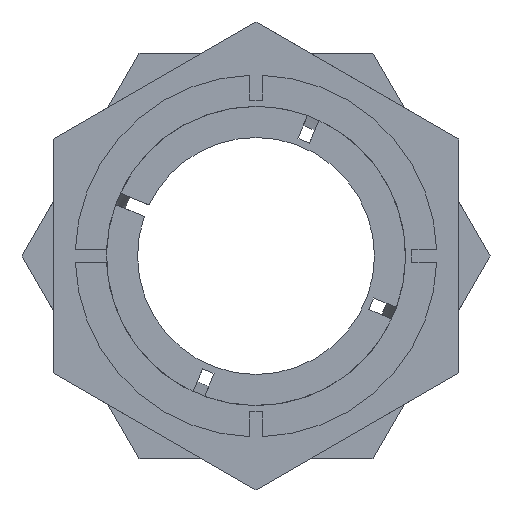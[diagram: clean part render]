
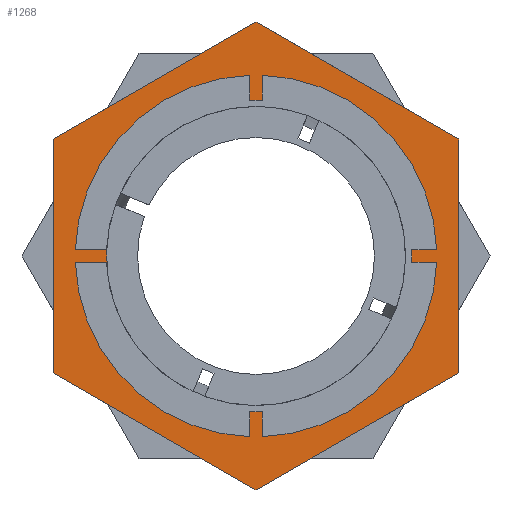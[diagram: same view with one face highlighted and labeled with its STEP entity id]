
A CAD part, left-side view. The second image highlights one B-rep face of the part: STEP entity #1268.
In plain terms, the highlighted planar face has unit normal (-1, 0, 0).
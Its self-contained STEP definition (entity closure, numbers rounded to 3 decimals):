
#87 = VERTEX_POINT ( 'NONE', #214 ) ;
#88 = VERTEX_POINT ( 'NONE', #215 ) ;
#89 = VERTEX_POINT ( 'NONE', #216 ) ;
#90 = VERTEX_POINT ( 'NONE', #217 ) ;
#91 = VERTEX_POINT ( 'NONE', #218 ) ;
#92 = VERTEX_POINT ( 'NONE', #219 ) ;
#93 = VERTEX_POINT ( 'NONE', #220 ) ;
#94 = VERTEX_POINT ( 'NONE', #221 ) ;
#214 = CARTESIAN_POINT ( 'NONE',  ( 32.52, 0., -23.001 ) ) ;
#215 = CARTESIAN_POINT ( 'NONE',  ( 32.52, 0., 23.001 ) ) ;
#216 = CARTESIAN_POINT ( 'NONE',  ( 32.52, 0., 37.528 ) ) ;
#217 = CARTESIAN_POINT ( 'NONE',  ( 32.52, 32.5, 18.764 ) ) ;
#218 = CARTESIAN_POINT ( 'NONE',  ( 32.52, 32.5, -18.764 ) ) ;
#219 = CARTESIAN_POINT ( 'NONE',  ( 32.52, 0., -37.528 ) ) ;
#220 = CARTESIAN_POINT ( 'NONE',  ( 32.52, -32.5, -18.764 ) ) ;
#221 = CARTESIAN_POINT ( 'NONE',  ( 32.52, -32.5, 18.764 ) ) ;
#575 = CARTESIAN_POINT ( 'NONE',  ( 32.52, 0., -37.528 ) ) ;
#576 = DIRECTION ( 'NONE',  ( 0., -0.866, -0.5 ) ) ;
#667 = CARTESIAN_POINT ( 'NONE',  ( 32.52, 0., 0. ) ) ;
#676 = DIRECTION ( 'NONE',  ( -1., 0., 0. ) ) ;
#677 = DIRECTION ( 'NONE',  ( 0., 0., 1. ) ) ;
#683 = CARTESIAN_POINT ( 'NONE',  ( 32.52, 0., 0. ) ) ;
#695 = CARTESIAN_POINT ( 'NONE',  ( 32.52, 32.5, -18.764 ) ) ;
#696 = DIRECTION ( 'NONE',  ( 0., 0., -1. ) ) ;
#699 = CARTESIAN_POINT ( 'NONE',  ( 32.52, -32.5, 18.764 ) ) ;
#700 = DIRECTION ( 'NONE',  ( 0., 0., 1. ) ) ;
#701 = CARTESIAN_POINT ( 'NONE',  ( 32.52, -32.5, -18.764 ) ) ;
#702 = DIRECTION ( 'NONE',  ( 0., -0.866, 0.5 ) ) ;
#703 = DIRECTION ( 'NONE',  ( -1., 0., 0. ) ) ;
#704 = DIRECTION ( 'NONE',  ( 0., 0., 1. ) ) ;
#705 = CARTESIAN_POINT ( 'NONE',  ( 32.52, 32.5, 18.764 ) ) ;
#706 = DIRECTION ( 'NONE',  ( 0., 0.866, -0.5 ) ) ;
#707 = CARTESIAN_POINT ( 'NONE',  ( 32.52, 0., 37.528 ) ) ;
#708 = DIRECTION ( 'NONE',  ( 0., 0.866, 0.5 ) ) ;
#884 = PLANE ( 'NONE',  #1771 ) ;
#885 = CARTESIAN_POINT ( 'NONE',  ( 32.52, 50., 0. ) ) ;
#893 = DIRECTION ( 'NONE',  ( 1., 0., 0. ) ) ;
#894 = DIRECTION ( 'NONE',  ( 0., 0., -1. ) ) ;
#1131 = EDGE_CURVE ( 'NONE', #91, #92, #2037, .T. ) ;
#1171 = EDGE_CURVE ( 'NONE', #87, #88, #2099, .T. ) ;
#1179 = EDGE_CURVE ( 'NONE', #90, #91, #2109, .T. ) ;
#1181 = EDGE_CURVE ( 'NONE', #93, #94, #2113, .T. ) ;
#1182 = EDGE_CURVE ( 'NONE', #92, #93, #2115, .T. ) ;
#1183 = EDGE_CURVE ( 'NONE', #88, #87, #2119, .T. ) ;
#1184 = EDGE_CURVE ( 'NONE', #89, #90, #2089, .T. ) ;
#1185 = EDGE_CURVE ( 'NONE', #94, #89, #2120, .T. ) ;
#1268 = ADVANCED_FACE ( 'NONE', ( #2208, #2206 ), #884, .F. ) ;
#1588 = EDGE_LOOP ( 'NONE', ( #2376, #2374 ) ) ;
#1615 = EDGE_LOOP ( 'NONE', ( #2419, #2312, #2324, #2314, #2318, #2320 ) ) ;
#1728 = AXIS2_PLACEMENT_3D ( 'NONE', #667, #676, #677 ) ;
#1730 = AXIS2_PLACEMENT_3D ( 'NONE', #683, #703, #704 ) ;
#1771 = AXIS2_PLACEMENT_3D ( 'NONE', #885, #893, #894 ) ;
#2037 = LINE ( 'NONE', #575, #2038 ) ;
#2038 = VECTOR ( 'NONE', #576, 1000. ) ;
#2089 = LINE ( 'NONE', #705, #2105 ) ;
#2099 = CIRCLE ( 'NONE', #1728, 23.001 ) ;
#2105 = VECTOR ( 'NONE', #706, 1000. ) ;
#2109 = LINE ( 'NONE', #695, #2110 ) ;
#2110 = VECTOR ( 'NONE', #696, 1000. ) ;
#2113 = LINE ( 'NONE', #699, #2114 ) ;
#2114 = VECTOR ( 'NONE', #700, 1000. ) ;
#2115 = LINE ( 'NONE', #701, #2116 ) ;
#2116 = VECTOR ( 'NONE', #702, 1000. ) ;
#2119 = CIRCLE ( 'NONE', #1730, 23.001 ) ;
#2120 = LINE ( 'NONE', #707, #2121 ) ;
#2121 = VECTOR ( 'NONE', #708, 1000. ) ;
#2206 = FACE_OUTER_BOUND ( 'NONE', #1615, .T. ) ;
#2208 = FACE_BOUND ( 'NONE', #1588, .T. ) ;
#2312 = ORIENTED_EDGE ( 'NONE', *, *, #1179, .T. ) ;
#2314 = ORIENTED_EDGE ( 'NONE', *, *, #1182, .T. ) ;
#2318 = ORIENTED_EDGE ( 'NONE', *, *, #1181, .T. ) ;
#2320 = ORIENTED_EDGE ( 'NONE', *, *, #1185, .T. ) ;
#2324 = ORIENTED_EDGE ( 'NONE', *, *, #1131, .T. ) ;
#2374 = ORIENTED_EDGE ( 'NONE', *, *, #1171, .F. ) ;
#2376 = ORIENTED_EDGE ( 'NONE', *, *, #1183, .F. ) ;
#2419 = ORIENTED_EDGE ( 'NONE', *, *, #1184, .T. ) ;
